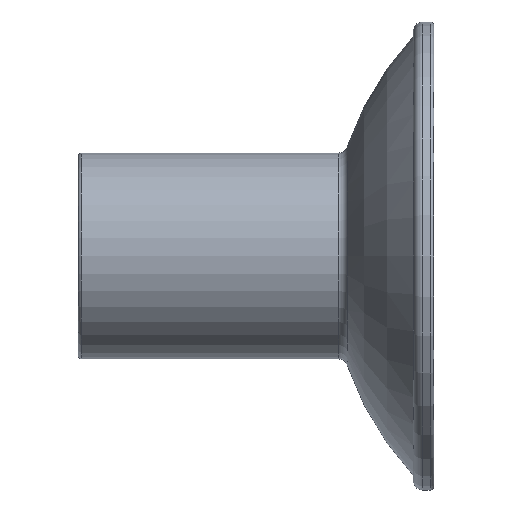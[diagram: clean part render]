
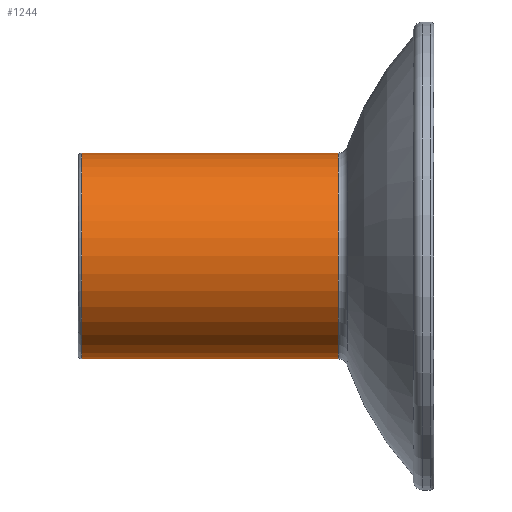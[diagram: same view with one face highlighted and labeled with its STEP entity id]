
A CAD part, left-side view. The second image highlights one B-rep face of the part: STEP entity #1244.
In plain terms, the highlighted cylindrical face has radius 5.5 mm (diameter 11 mm), a partial arc.
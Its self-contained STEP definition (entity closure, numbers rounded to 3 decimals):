
#38 = CIRCLE ( 'NONE', #1476, 5.5 ) ;
#80 = VECTOR ( 'NONE', #846, 1000. ) ;
#103 = DIRECTION ( 'NONE',  ( 0., 1., 0. ) ) ;
#219 = CIRCLE ( 'NONE', #865, 5.5 ) ;
#222 = EDGE_CURVE ( 'NONE', #1031, #621, #38, .T. ) ;
#264 = CARTESIAN_POINT ( 'NONE',  ( 0., 53.08, 5.5 ) ) ;
#324 = CARTESIAN_POINT ( 'NONE',  ( 0., 53.08, 0. ) ) ;
#349 = DIRECTION ( 'NONE',  ( 0., -1., 0. ) ) ;
#367 = LINE ( 'NONE', #264, #1352 ) ;
#480 = CARTESIAN_POINT ( 'NONE',  ( 0., -13.9, -5.5 ) ) ;
#532 = CYLINDRICAL_SURFACE ( 'NONE', #1216, 5.5 ) ;
#621 = VERTEX_POINT ( 'NONE', #933 ) ;
#675 = LINE ( 'NONE', #1315, #80 ) ;
#762 = CARTESIAN_POINT ( 'NONE',  ( 0., -13.9, 0. ) ) ;
#779 = ORIENTED_EDGE ( 'NONE', *, *, #1282, .F. ) ;
#790 = ORIENTED_EDGE ( 'NONE', *, *, #222, .T. ) ;
#846 = DIRECTION ( 'NONE',  ( 0., 1., 0. ) ) ;
#860 = EDGE_CURVE ( 'NONE', #918, #1610, #219, .T. ) ;
#865 = AXIS2_PLACEMENT_3D ( 'NONE', #762, #103, #1627 ) ;
#918 = VERTEX_POINT ( 'NONE', #480 ) ;
#933 = CARTESIAN_POINT ( 'NONE',  ( 0., -0.2, -5.5 ) ) ;
#976 = DIRECTION ( 'NONE',  ( 0., 1., 0. ) ) ;
#1029 = CARTESIAN_POINT ( 'NONE',  ( 0., -13.9, 5.5 ) ) ;
#1031 = VERTEX_POINT ( 'NONE', #1261 ) ;
#1149 = EDGE_LOOP ( 'NONE', ( #779, #1190, #1456, #790 ) ) ;
#1166 = DIRECTION ( 'NONE',  ( 0., 1., 0. ) ) ;
#1167 = DIRECTION ( 'NONE',  ( 0., 0., 1. ) ) ;
#1181 = CARTESIAN_POINT ( 'NONE',  ( 0., -0.2, 0. ) ) ;
#1190 = ORIENTED_EDGE ( 'NONE', *, *, #860, .T. ) ;
#1216 = AXIS2_PLACEMENT_3D ( 'NONE', #324, #976, #1167 ) ;
#1244 = ADVANCED_FACE ( 'NONE', ( #1353 ), #532, .T. ) ;
#1261 = CARTESIAN_POINT ( 'NONE',  ( 0., -0.2, 5.5 ) ) ;
#1282 = EDGE_CURVE ( 'NONE', #918, #621, #675, .T. ) ;
#1315 = CARTESIAN_POINT ( 'NONE',  ( 0., 53.08, -5.5 ) ) ;
#1352 = VECTOR ( 'NONE', #1166, 1000. ) ;
#1353 = FACE_OUTER_BOUND ( 'NONE', #1149, .T. ) ;
#1456 = ORIENTED_EDGE ( 'NONE', *, *, #1504, .T. ) ;
#1476 = AXIS2_PLACEMENT_3D ( 'NONE', #1181, #349, #1611 ) ;
#1504 = EDGE_CURVE ( 'NONE', #1610, #1031, #367, .T. ) ;
#1610 = VERTEX_POINT ( 'NONE', #1029 ) ;
#1611 = DIRECTION ( 'NONE',  ( 0., 0., 1. ) ) ;
#1627 = DIRECTION ( 'NONE',  ( 0., 0., 1. ) ) ;
